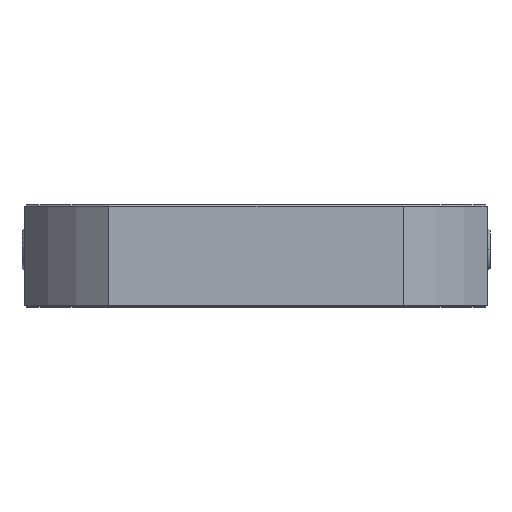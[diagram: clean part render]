
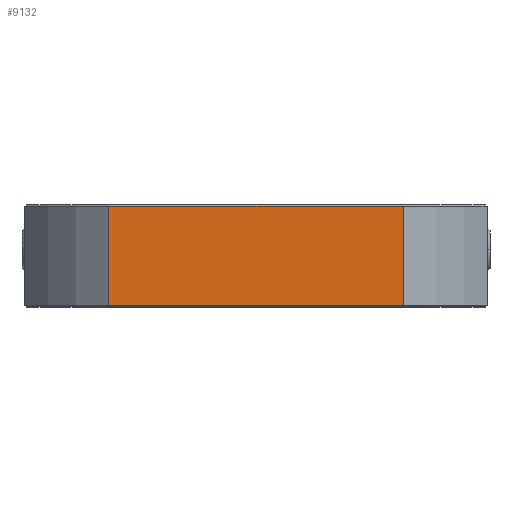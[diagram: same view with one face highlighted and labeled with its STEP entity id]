
A CAD part, top view. The second image highlights one B-rep face of the part: STEP entity #9132.
In plain terms, the highlighted planar face has unit normal (0, 0, 1).
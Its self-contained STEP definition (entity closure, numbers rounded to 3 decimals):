
#1070 = VECTOR ( 'NONE', #10765, 1000. ) ;
#1093 = EDGE_CURVE ( 'NONE', #8201, #6977, #25454, .T. ) ;
#1671 = DIRECTION ( 'NONE',  ( 0., -1., 0. ) ) ;
#2289 = LINE ( 'NONE', #19746, #8552 ) ;
#2583 = PLANE ( 'NONE',  #11570 ) ;
#2938 = DIRECTION ( 'NONE',  ( -1., 0., 0. ) ) ;
#3039 = FACE_OUTER_BOUND ( 'NONE', #31053, .T. ) ;
#3061 = DIRECTION ( 'NONE',  ( 0., 0., -1. ) ) ;
#3238 = DIRECTION ( 'NONE',  ( -1., 0., 0. ) ) ;
#4139 = CARTESIAN_POINT ( 'NONE',  ( -49.749, 0.508, 75. ) ) ;
#4730 = LINE ( 'NONE', #16448, #20451 ) ;
#6977 = VERTEX_POINT ( 'NONE', #17104 ) ;
#8201 = VERTEX_POINT ( 'NONE', #4139 ) ;
#8552 = VECTOR ( 'NONE', #9143, 1000. ) ;
#8582 = LINE ( 'NONE', #17548, #21756 ) ;
#8683 = CARTESIAN_POINT ( 'NONE',  ( -78., 34.5, 75. ) ) ;
#9132 = ADVANCED_FACE ( 'NONE', ( #3039 ), #2583, .F. ) ;
#9143 = DIRECTION ( 'NONE',  ( 0., 1., 0. ) ) ;
#10765 = DIRECTION ( 'NONE',  ( 1., 0., 0. ) ) ;
#11381 = CARTESIAN_POINT ( 'NONE',  ( -78., 0.508, 75. ) ) ;
#11570 = AXIS2_PLACEMENT_3D ( 'NONE', #8683, #3061, #2938 ) ;
#13516 = EDGE_CURVE ( 'NONE', #15161, #18967, #4730, .T. ) ;
#15161 = VERTEX_POINT ( 'NONE', #28655 ) ;
#15297 = CARTESIAN_POINT ( 'NONE',  ( -49.749, 33.992, 75. ) ) ;
#15984 = EDGE_CURVE ( 'NONE', #8201, #18967, #2289, .T. ) ;
#16448 = CARTESIAN_POINT ( 'NONE',  ( -49.749, 33.992, 75. ) ) ;
#16797 = ORIENTED_EDGE ( 'NONE', *, *, #28173, .F. ) ;
#17104 = CARTESIAN_POINT ( 'NONE',  ( 49.749, 0.508, 75. ) ) ;
#17548 = CARTESIAN_POINT ( 'NONE',  ( 49.749, 0., 75. ) ) ;
#18967 = VERTEX_POINT ( 'NONE', #15297 ) ;
#19746 = CARTESIAN_POINT ( 'NONE',  ( -49.749, 0., 75. ) ) ;
#20451 = VECTOR ( 'NONE', #3238, 1000. ) ;
#21756 = VECTOR ( 'NONE', #1671, 1000. ) ;
#25454 = LINE ( 'NONE', #11381, #1070 ) ;
#26491 = ORIENTED_EDGE ( 'NONE', *, *, #15984, .F. ) ;
#27622 = ORIENTED_EDGE ( 'NONE', *, *, #1093, .T. ) ;
#28173 = EDGE_CURVE ( 'NONE', #15161, #6977, #8582, .T. ) ;
#28655 = CARTESIAN_POINT ( 'NONE',  ( 49.749, 33.992, 75. ) ) ;
#31053 = EDGE_LOOP ( 'NONE', ( #26491, #27622, #16797, #33938 ) ) ;
#33938 = ORIENTED_EDGE ( 'NONE', *, *, #13516, .T. ) ;
